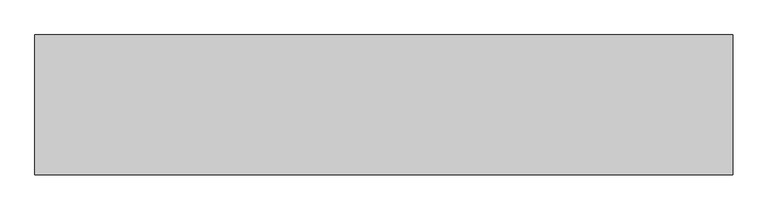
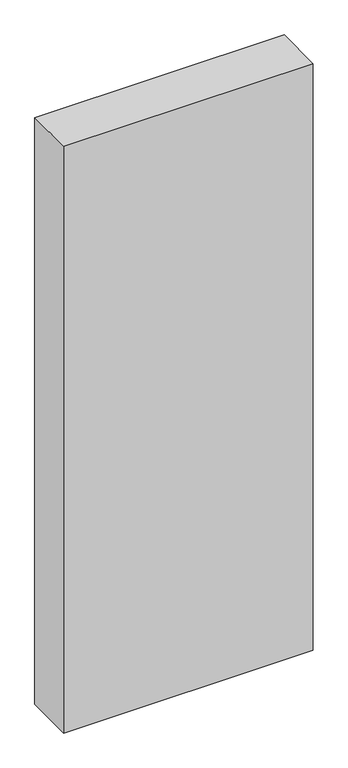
"""IFC4 building model written with IfcOpenShell, lengths in millimetres: proxy geometry."""

import ifcopenshell
import ifcopenshell.guid

model = None  # the IFC model being written
_history = None  # IfcOwnerHistory: only IFC2X3 demands one
_inside = {}  # id of a spatial element -> (the spatial element, [elements in it])
_under = {}  # id of a project, library or spatial element -> (it, [spatial elements below it])
_declared = {}  # id of a project -> (the project, [libraries it declares])
_typed = {}  # id of a type object -> (the type object, [elements of that type])
_made_of = {}  # id of a material, layer set ... -> (it, [elements and type objects made of it])


def new_model(schema):
    """Start an empty IFC model of exactly this schema.

    Asked for "IFC4X3", IfcOpenShell would pick the latest addendum, in which some entities
    have other attributes; the version numbers below select the first issue.
    IFC2X3 requires an IfcOwnerHistory on every rooted entity: one is made here for all.
    """
    global model, _history
    if schema == "IFC4X3":
        model = ifcopenshell.file(schema_version=(4, 3, 0, 0))
    else:
        model = ifcopenshell.file(schema=schema)
    _inside.clear()
    _under.clear()
    _declared.clear()
    _typed.clear()
    _made_of.clear()
    _history = None
    if model.schema == "IFC2X3":
        org = make("IfcOrganization", Name="unknown")
        user = make(
            "IfcPersonAndOrganization",
            ThePerson=make("IfcPerson", FamilyName="unknown"),
            TheOrganization=org,
        )
        app = make(
            "IfcApplication",
            ApplicationDeveloper=org,
            Version="unknown",
            ApplicationFullName="unknown",
            ApplicationIdentifier="unknown",
        )
        _history = make(
            "IfcOwnerHistory",
            OwningUser=user,
            OwningApplication=app,
            ChangeAction="ADDED",
            CreationDate=0,
        )
    return model


def make(cls, **values):
    """One entity of the class cls with the attributes given. An attribute that is None is left unset."""
    return model.create_entity(
        cls, **{name: value for name, value in values.items() if value is not None}
    )


def rooted(cls, **values):
    """An entity with a GlobalId (a new one), such as an element, a storey or a relation."""
    return make(cls, GlobalId=ifcopenshell.guid.new(), OwnerHistory=_history, **values)


def si_unit(unit_type, name, prefix=None):
    """IfcSIUnit, for example si_unit("LENGTHUNIT", "METRE", prefix="MILLI")."""
    return make("IfcSIUnit", UnitType=unit_type, Prefix=prefix, Name=name)


def assignment(units):
    """IfcUnitAssignment: the units of a project."""
    return None if units is None else make("IfcUnitAssignment", Units=units)


def point(xyz):
    """IfcCartesianPoint."""
    return None if xyz is None else make("IfcCartesianPoint", Coordinates=xyz)


def direction(xyz):
    """IfcDirection."""
    return None if xyz is None else make("IfcDirection", DirectionRatios=xyz)


def frame(location, z_axis=None, x_axis=None):
    """IfcAxis2Placement3D, a coordinate frame: its origin and axes. An axis left out is left unset."""
    return make(
        "IfcAxis2Placement3D",
        Location=point(location),
        Axis=direction(z_axis),
        RefDirection=direction(x_axis),
    )


def origin():
    """The frame at (0, 0, 0) with its axes left unset."""
    return frame((0.0, 0.0, 0.0))


def origin_with_axes():
    """The frame at (0, 0, 0) with the z axis (0, 0, 1) and the x axis (1, 0, 0) written out."""
    return frame((0.0, 0.0, 0.0), z_axis=(0.0, 0.0, 1.0), x_axis=(1.0, 0.0, 0.0))


def place(relative_to, where):
    """IfcLocalPlacement: puts the frame where relative to a parent placement (None: the world)."""
    return make(
        "IfcLocalPlacement", PlacementRelTo=relative_to, RelativePlacement=where
    )


def context(
    kind, dimensions, precision=None, world=None, true_north=None, identifier=None
):
    """IfcGeometricRepresentationContext, for example the 3D "Model" context."""
    return make(
        "IfcGeometricRepresentationContext",
        ContextIdentifier=identifier,
        ContextType=kind,
        CoordinateSpaceDimension=dimensions,
        Precision=precision,
        WorldCoordinateSystem=world,
        TrueNorth=true_north,
    )


def project(units=None, contexts=None):
    """IfcProject with its units and contexts."""
    return rooted(
        "IfcProject",
        Name="project",
        RepresentationContexts=contexts,
        UnitsInContext=assignment(units),
    )


def spatial(cls, under=None, at=None, **own):
    """A site, building, storey or space (cls), placed at a placement, below another one or the project."""
    s = rooted(cls, ObjectPlacement=at, **own)
    if under is not None:
        _under.setdefault(under.id(), (under, []))[1].append(s)
    return s


def polyline(points):
    """IfcPolyline through the points."""
    return make("IfcPolyline", Points=[point(p) for p in points])


def outline(outer, holes=None, kind="AREA"):
    """IfcArbitraryClosedProfileDef: a profile drawn as a closed curve; with holes, ...WithVoids."""
    if holes is None:
        return make("IfcArbitraryClosedProfileDef", ProfileType=kind, OuterCurve=outer)
    return make(
        "IfcArbitraryProfileDefWithVoids",
        ProfileType=kind,
        OuterCurve=outer,
        InnerCurves=holes,
    )


def extrude(swept, where, along, depth):
    """IfcExtrudedAreaSolid: the profile swept, set in the frame where, extruded along a direction by depth."""
    return make(
        "IfcExtrudedAreaSolid",
        SweptArea=swept,
        Position=where,
        ExtrudedDirection=direction(along),
        Depth=depth,
    )


def shape(context_of_items, identifier, shape_type, items):
    """IfcShapeRepresentation: the items that make up one representation, for example the "Body"."""
    return make(
        "IfcShapeRepresentation",
        ContextOfItems=context_of_items,
        RepresentationIdentifier=identifier,
        RepresentationType=shape_type,
        Items=items,
    )


def source(mapping_origin, context_of_items, identifier, shape_type, items):
    """IfcRepresentationMap: a shape defined once, which mapped items show again and again."""
    return make(
        "IfcRepresentationMap",
        MappingOrigin=mapping_origin,
        MappedRepresentation=shape(context_of_items, identifier, shape_type, items),
    )


def transform(
    local_origin,
    x_axis=None,
    y_axis=None,
    z_axis=None,
    scale=None,
    scale2=None,
    scale3=None,
    uniform=True,
):
    """IfcCartesianTransformationOperator3D, or its non-uniform kind. x_axis, y_axis, z_axis: its Axis1, 2, 3."""
    if uniform:
        return make(
            "IfcCartesianTransformationOperator3D",
            Axis1=direction(x_axis),
            Axis2=direction(y_axis),
            LocalOrigin=point(local_origin),
            Scale=scale,
            Axis3=direction(z_axis),
        )
    return make(
        "IfcCartesianTransformationOperator3DnonUniform",
        Axis1=direction(x_axis),
        Axis2=direction(y_axis),
        LocalOrigin=point(local_origin),
        Scale=scale,
        Axis3=direction(z_axis),
        Scale2=scale2,
        Scale3=scale3,
    )


def mapped(mapping_source, mapping_target):
    """IfcMappedItem: shows the shape of a source again, moved by a transform."""
    return make(
        "IfcMappedItem", MappingSource=mapping_source, MappingTarget=mapping_target
    )


def made_of(thing, what):
    """Note that an element or type object is made of a material, layer set ...; save() writes the relation."""
    if what is not None:
        _made_of.setdefault(what.id(), (what, []))[1].append(thing)
    return thing


def element(
    cls,
    number,
    at=None,
    inside=None,
    cuts=None,
    type_object=None,
    material=None,
    context=None,
    identifier="Body",
    shape_type=None,
    held_by="IfcProductDefinitionShape",
    body=None,
    shapes=None,
    **own,
):
    """One element of the class cls, such as IfcWall. Its Tag is "e" and its number.

    at: its placement. inside: the storey or other place that contains it. cuts: it is an
    opening in that element (IfcRelVoidsElement). A single representation is given by context,
    identifier, shape_type and body (its items); several are given by shapes. held_by: the class
    of the entity that holds the representations. save() writes the other relations.
    """
    e = rooted(cls, Tag="e%d" % number, ObjectPlacement=at, **own)
    if body is not None:
        shapes = [shape(context, identifier, shape_type, body)]
    if shapes is not None:
        e.Representation = make(held_by, Representations=shapes)
    if inside is not None:
        _inside.setdefault(inside.id(), (inside, []))[1].append(e)
    if cuts is not None:
        rooted(
            "IfcRelVoidsElement", RelatingBuildingElement=cuts, RelatedOpeningElement=e
        )
    if type_object is not None:
        _typed.setdefault(type_object.id(), (type_object, []))[1].append(e)
    return made_of(e, material)


def aggregate(whole, parts):
    """IfcRelAggregates: a whole, such as a stair, and the parts it consists of."""
    return rooted("IfcRelAggregates", RelatingObject=whole, RelatedObjects=parts)


def save(model, path):
    """Write the relations noted so far, then the file.

    IfcRelAggregates (storeys below a building ...), IfcRelContainedInSpatialStructure (elements
    in a storey), IfcRelDefinesByType, IfcRelAssociatesMaterial and IfcRelDeclares: one each for
    every whole, place, type object, material and project.
    """
    for whole, parts in _under.values():
        aggregate(whole, parts)
    for where, things in _inside.values():
        rooted(
            "IfcRelContainedInSpatialStructure",
            RelatedElements=things,
            RelatingStructure=where,
        )
    for kind, things in _typed.values():
        rooted("IfcRelDefinesByType", RelatedObjects=things, RelatingType=kind)
    for what, things in _made_of.values():
        rooted("IfcRelAssociatesMaterial", RelatedObjects=things, RelatingMaterial=what)
    for by, libraries in _declared.values():
        rooted("IfcRelDeclares", RelatingContext=by, RelatedDefinitions=libraries)
    model.write(path)


def generic_models_5be2d3e6(model_context):
    return source(origin(), model_context, "Body", "SweptSolid", [
        extrude(outline(polyline([(-1000.0, 0.0), (0.0, 0.0), (0.0, -200.0), (-1000.0, -200.0), (-1000.0, 0.0)])), origin_with_axes(), (0.0, 0.0, 1.0), 2485.0),
    ])


if __name__ == "__main__":
    model = new_model("IFC4")
    model_context = context("Model", 3, world=origin())
    ifc_project = project(units=[si_unit("LENGTHUNIT", "METRE", prefix="MILLI")], contexts=[model_context])
    site = spatial("IfcSite", under=ifc_project)
    building = spatial("IfcBuilding", under=site)
    placement = place(None, origin())
    generic_models_shape = generic_models_5be2d3e6(model_context)
    element("IfcBuildingElementProxy", 1, Name="Generic Models", at=placement, inside=building, context=model_context, shape_type="MappedRepresentation", body=[
        mapped(generic_models_shape, transform((0.0, 0.0, 0.0), x_axis=(1.0, 0.0, 0.0), y_axis=(0.0, 1.0, 0.0), z_axis=(0.0, 0.0, 1.0))),
    ])
    save(model, "model.ifc")
